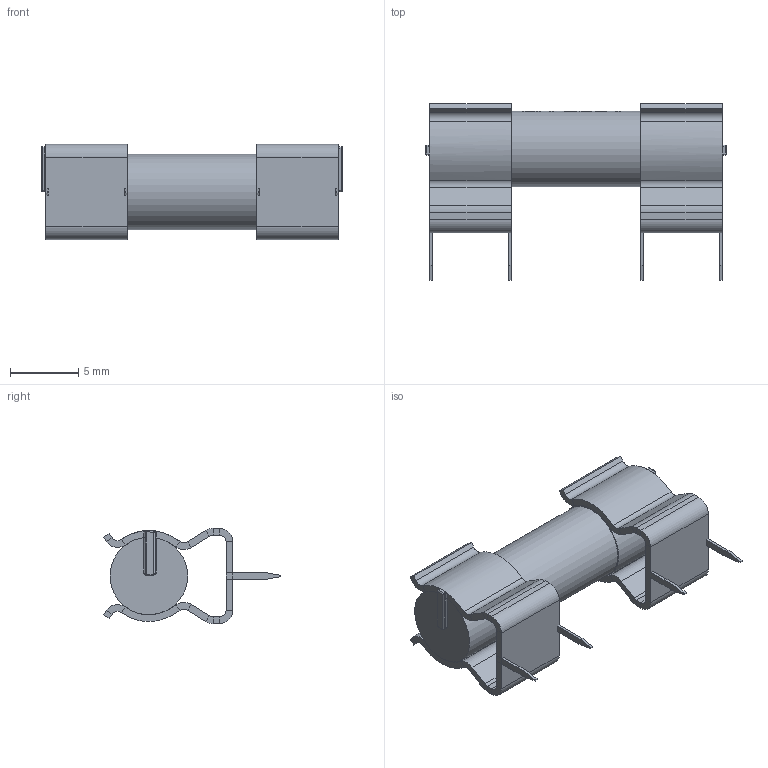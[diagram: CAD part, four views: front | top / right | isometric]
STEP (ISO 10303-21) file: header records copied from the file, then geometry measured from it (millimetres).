
FILE_DESCRIPTION(/* description */ ('','CAx-IF Rec.Pracs.---Representation and Presentation of Product Manufacturing Information (PMI)---4.0---2014-10-13'),/* implementation_level */ '2;1');
FILE_NAME(/* name */ 'D:\Electrique\programe\Proteus 8 Professional 8.6 SP2 for Windows\MCAD\FUSE_CLIP.stp',/* time_stamp */ '2021-02-12T22:49:34+01:00',/* author */ ('mesbah'),/* organization */ (''),/* preprocessor_version */ 'ST-DEVELOPER v18.1',/* originating_system */ 'Autodesk Inventor 2021',/* authorisation */ '');
FILE_SCHEMA (('AP242_MANAGED_MODEL_BASED_3D_ENGINEERING_MIM_LF { 1 0 10303 442 1 1 4 }'));
Length unit declared in the file: millimetre
Products named in the file (1): FUSE_CLIP
Bounding box: 22.1 x 13 x 7 mm (x, y, z)
Volume: 691.7 mm3; surface area: 1011.2 mm2
Topology: 2 solids, 2 shells, 340 faces, 825 edges, 515 vertices
Faces by surface type: plane 191, bspline 81, cylinder 62, sphere 4, torus 2
Full cylindrical faces by diameter (mm): 5.543 x1
Entity records: 11593 total; most frequent: CARTESIAN_POINT 4056, ORIENTED_EDGE 1596, DIRECTION 1307, EDGE_CURVE 798, VERTEX_POINT 468, LINE 461, VECTOR 461, AXIS2_PLACEMENT_3D 423
